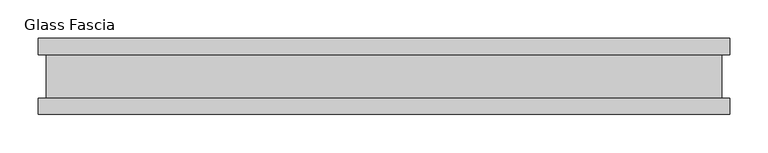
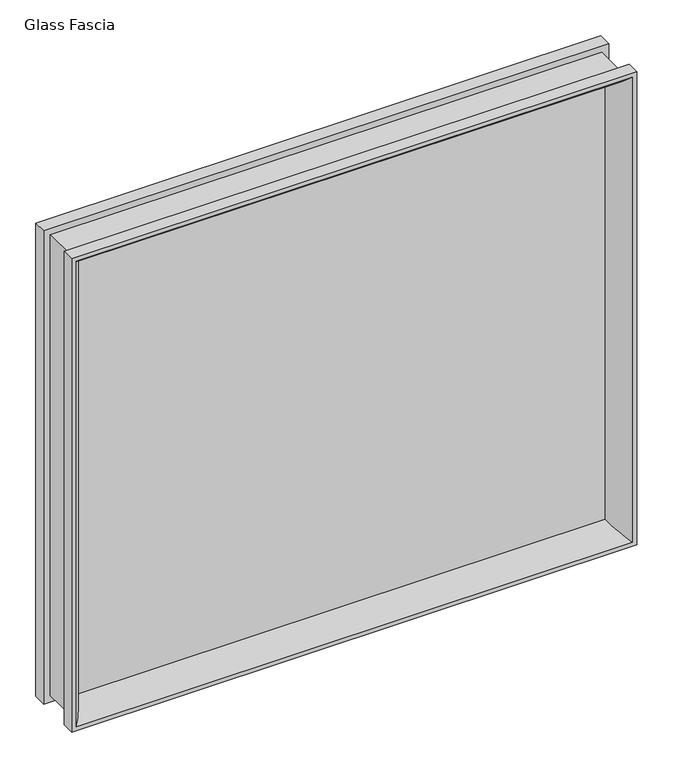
"""IFC4 building model written with IfcOpenShell, lengths in millimetres: proxy geometry, Panel-Fascia-Teknion-Altos-Glass : Glass Fascia."""

from ifc_helpers import new_model, si_unit, frame, origin, place, context, project, spatial, polyline, ellipse_curve, outline, extrude, source, transform, mapped, element, save
from ifc_brep_helpers import plane_surface, cylinder_surface, advanced_brep


def glass_fascia_649ace3c(model_context):
    return source(origin(), model_context, "Body", "SolidModel", [
        advanced_brep(
        [(429.1093308, 5.0827449, 782.6403332), (447.0641812, 50.0558594, 800.5951836), (447.0641812, 50.0558594, 10.1728164), (429.1093308, 5.0827449, 28.1276668), (439.5995219, -5.0827449, 793.1305243), (439.5995219, 5.0827449, 793.1305243), (439.5995219, 5.0827449, 17.6374757), (439.5995219, -5.0827449, 17.6374757), (447.0641812, -50.0558594, 800.5951836), (429.1093308, -5.0827449, 782.6403332), (429.1093308, -5.0827449, 28.1276668), (447.0641812, -50.0558594, 10.1728164), (454.0619976, -28.8801202, 807.593), (454.0619976, -50.0558594, 807.593), (454.0619976, -50.0558594, 3.175), (454.0619976, -28.8801202, 3.175), (443.2369977, 28.2698798, 796.7680001), (443.2369977, -28.8801202, 796.7680001), (443.2369977, -28.8801202, 13.9999999), (443.2369977, 28.2698798, 13.9999999), (454.0619976, 50.0558594, 807.593), (454.0619976, 28.2698798, 807.593), (454.0619976, 28.2698798, 3.175), (454.0619976, 50.0558594, 3.175), (-447.0641812, 50.0558594, 10.1728164), (-429.1093308, 5.0827449, 28.1276668), (-439.5995219, 5.0827449, 17.6374757), (-439.5995219, -5.0827449, 17.6374757), (-429.1093308, -5.0827449, 28.1276668), (-447.0641812, -50.0558594, 10.1728164), (-454.0619976, -50.0558594, 3.175), (-454.0619976, -28.8801202, 3.175), (-443.2369977, -28.8801202, 13.9999999), (-443.2369977, 28.2698798, 13.9999999), (-454.0619976, 28.2698798, 3.175), (-454.0619976, 50.0558594, 3.175), (-447.0641812, 50.0558594, 800.5951836), (-429.1093308, 5.0827449, 782.6403332), (-439.5995219, 5.0827449, 793.1305243), (-439.5995219, -5.0827449, 793.1305243), (-429.1093308, -5.0827449, 782.6403332), (-447.0641812, -50.0558594, 800.5951836), (-454.0619976, -50.0558594, 807.593), (-454.0619976, -28.8801202, 807.593), (-443.2369977, -28.8801202, 796.7680001), (-443.2369977, 28.2698798, 796.7680001), (-454.0619976, 28.2698798, 807.593), (-454.0619976, 50.0558594, 807.593)],
        [
            (0, 1, ellipse_curve(frame((481.1955682, 10.3587469, 834.7265705), z_axis=(0.7071067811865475, 0.0, -0.7071067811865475), x_axis=(0.7071067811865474, 0.0, 0.7071067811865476)), 74.0379946, 52.352768)),
            (1, 2),
            (2, 3, ellipse_curve(frame((481.1955682, 10.3587469, -23.9585705), z_axis=(0.7071067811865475, 0.0, 0.7071067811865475), x_axis=(-0.7071067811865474, 0.0, 0.7071067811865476)), 74.0379946, 52.352768)),
            (3, 0),
            (4, 5),
            (5, 6),
            (6, 7),
            (7, 4),
            (8, 9, ellipse_curve(frame((481.1955682, -10.3587469, 834.7265705), z_axis=(0.7071067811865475, 0.0, -0.7071067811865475), x_axis=(0.7071067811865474, 0.0, 0.7071067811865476)), 74.0379946, 52.352768)),
            (9, 10),
            (10, 11, ellipse_curve(frame((481.1955682, -10.3587469, -23.9585705), z_axis=(0.7071067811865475, 0.0, 0.7071067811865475), x_axis=(-0.7071067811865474, 0.0, 0.7071067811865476)), 74.0379946, 52.352768)),
            (11, 8),
            (12, 13),
            (13, 14),
            (14, 15),
            (15, 12),
            (16, 17),
            (17, 18),
            (18, 19),
            (19, 16),
            (20, 21),
            (21, 22),
            (22, 23),
            (23, 20),
            (2, 24),
            (24, 25, ellipse_curve(frame((-481.1955682, 10.3587469, -23.9585705), z_axis=(0.7071067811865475, 0.0, -0.7071067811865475), x_axis=(0.7071067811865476, 0.0, 0.7071067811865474)), 74.0379946, 52.352768)),
            (25, 3),
            (6, 26),
            (26, 27),
            (27, 7),
            (10, 28),
            (28, 29, ellipse_curve(frame((-481.1955682, -10.3587469, -23.9585705), z_axis=(0.7071067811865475, 0.0, -0.7071067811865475), x_axis=(0.7071067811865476, 0.0, 0.7071067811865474)), 74.0379946, 52.352768)),
            (29, 11),
            (14, 30),
            (30, 31),
            (31, 15),
            (18, 32),
            (32, 33),
            (33, 19),
            (22, 34),
            (34, 35),
            (35, 23),
            (24, 36),
            (36, 37, ellipse_curve(frame((-481.1955682, 10.3587469, 834.7265705), z_axis=(-0.7071067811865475, 0.0, -0.7071067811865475), x_axis=(0.7071067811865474, 0.0, -0.7071067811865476)), 74.0379946, 52.352768)),
            (37, 25),
            (26, 38),
            (38, 39),
            (39, 27),
            (28, 40),
            (40, 41, ellipse_curve(frame((-481.1955682, -10.3587469, 834.7265705), z_axis=(-0.7071067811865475, 0.0, -0.7071067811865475), x_axis=(0.7071067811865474, 0.0, -0.7071067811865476)), 74.0379946, 52.352768)),
            (41, 29),
            (30, 42),
            (42, 43),
            (43, 31),
            (32, 44),
            (44, 45),
            (45, 33),
            (34, 46),
            (46, 47),
            (47, 35),
            (47, 20),
            (1, 36),
            (0, 37),
            (5, 38),
            (4, 39),
            (9, 40),
            (8, 41),
            (13, 42),
            (12, 43),
            (17, 44),
            (16, 45),
            (21, 46),
        ],
        [
            cylinder_surface(frame((481.1955682, 10.3587469, 807.593), z_axis=(0.0, 0.0, 1.0), x_axis=(1.0, 0.0, 0.0)), 52.352768),
            plane_surface(frame((439.5995219, 5.0827449, 793.1305243), z_axis=(-1.0, 0.0, 0.0), x_axis=(0.0, 0.0, -1.0))),
            cylinder_surface(frame((481.1955682, -10.3587469, 807.593), z_axis=(0.0, 0.0, 1.0), x_axis=(1.0, 0.0, 0.0)), 52.352768),
            plane_surface(frame((454.0619976, -50.0558594, 807.593), z_axis=(1.0, 0.0, 0.0), x_axis=(0.0, 0.0, -1.0))),
            plane_surface(frame((443.2369977, -28.8801202, 796.7680001), z_axis=(1.0, 0.0, 0.0), x_axis=(0.0, 0.0, -1.0))),
            plane_surface(frame((454.0619976, 28.2698798, 807.593), z_axis=(1.0, 0.0, 0.0), x_axis=(0.0, 0.0, -1.0))),
            cylinder_surface(frame((454.0619976, 10.3587469, -23.9585705), z_axis=(1.0, 0.0, 0.0), x_axis=(0.0, 0.0, -1.0)), 52.352768),
            plane_surface(frame((439.5995219, 5.0827449, 17.6374757), z_axis=(0.0, 0.0, 1.0), x_axis=(-1.0, 0.0, 0.0))),
            cylinder_surface(frame((454.0619976, -10.3587469, -23.9585705), z_axis=(1.0, 0.0, 0.0), x_axis=(0.0, 0.0, -1.0)), 52.352768),
            plane_surface(frame((454.0619976, -50.0558594, 3.175), z_axis=(0.0, 0.0, -1.0), x_axis=(-1.0, 0.0, 0.0))),
            plane_surface(frame((443.2369977, -28.8801202, 13.9999999), z_axis=(0.0, 0.0, -1.0), x_axis=(-1.0, 0.0, 0.0))),
            plane_surface(frame((454.0619976, 28.2698798, 3.175), z_axis=(0.0, 0.0, -1.0), x_axis=(-1.0, 0.0, 0.0))),
            cylinder_surface(frame((-481.1955682, 10.3587469, 3.175), z_axis=(0.0, 0.0, -1.0), x_axis=(-1.0, 0.0, 0.0)), 52.352768),
            plane_surface(frame((-439.5995219, 5.0827449, 17.6374757), z_axis=(1.0, 0.0, 0.0), x_axis=(0.0, 0.0, 1.0))),
            cylinder_surface(frame((-481.1955682, -10.3587469, 3.175), z_axis=(0.0, 0.0, -1.0), x_axis=(-1.0, 0.0, 0.0)), 52.352768),
            plane_surface(frame((-454.0619976, -50.0558594, 3.175), z_axis=(-1.0, 0.0, 0.0), x_axis=(0.0, 0.0, 1.0))),
            plane_surface(frame((-443.2369977, -28.8801202, 13.9999999), z_axis=(-1.0, 0.0, 0.0), x_axis=(0.0, 0.0, 1.0))),
            plane_surface(frame((-454.0619976, 28.2698798, 3.175), z_axis=(-1.0, 0.0, 0.0), x_axis=(0.0, 0.0, 1.0))),
            plane_surface(frame((-454.0619976, 50.0558594, 807.593), z_axis=(0.0, 1.0, 0.0), x_axis=(1.0, 0.0, 0.0))),
            cylinder_surface(frame((-454.0619976, 10.3587469, 834.7265705), z_axis=(-1.0, 0.0, 0.0), x_axis=(0.0, 0.0, 1.0)), 52.352768),
            plane_surface(frame((-429.1093308, 5.0827449, 782.6403332), z_axis=(0.0, -1.0, 0.0), x_axis=(1.0, 0.0, 0.0))),
            plane_surface(frame((-439.5995219, 5.0827449, 793.1305243), z_axis=(0.0, 0.0, -1.0), x_axis=(1.0, 0.0, 0.0))),
            plane_surface(frame((-439.5995219, -5.0827449, 793.1305243), z_axis=(0.0, 1.0, 0.0), x_axis=(1.0, 0.0, 0.0))),
            cylinder_surface(frame((-454.0619976, -10.3587469, 834.7265705), z_axis=(-1.0, 0.0, 0.0), x_axis=(0.0, 0.0, 1.0)), 52.352768),
            plane_surface(frame((-447.0641812, -50.0558594, 800.5951836), z_axis=(0.0, -1.0, 0.0), x_axis=(1.0, 0.0, 0.0))),
            plane_surface(frame((-454.0619976, -50.0558594, 807.593), z_axis=(0.0, 0.0, 1.0), x_axis=(1.0, 0.0, 0.0))),
            plane_surface(frame((-454.0619976, -28.8801202, 807.593), z_axis=(0.0, 1.0, 0.0), x_axis=(1.0, 0.0, 0.0))),
            plane_surface(frame((-443.2369977, -28.8801202, 796.7680001), z_axis=(0.0, 0.0, 1.0), x_axis=(1.0, 0.0, 0.0))),
            plane_surface(frame((-443.2369977, 28.2698798, 796.7680001), z_axis=(0.0, -1.0, 0.0), x_axis=(1.0, 0.0, 0.0))),
            plane_surface(frame((-454.0619976, 28.2698798, 807.593), z_axis=(0.0, 0.0, 1.0), x_axis=(1.0, 0.0, 0.0))),
        ],
        [
            (0, [[1, 2, 3, 4]]),
            (1, [[5, 6, 7, 8]]),
            (2, [[9, 10, 11, 12]]),
            (3, [[13, 14, 15, 16]]),
            (4, [[17, 18, 19, 20]]),
            (5, [[21, 22, 23, 24]]),
            (6, [[-3, 25, 26, 27]]),
            (7, [[-7, 28, 29, 30]]),
            (8, [[-11, 31, 32, 33]]),
            (9, [[-15, 34, 35, 36]]),
            (10, [[-19, 37, 38, 39]]),
            (11, [[-23, 40, 41, 42]]),
            (12, [[-26, 43, 44, 45]]),
            (13, [[-29, 46, 47, 48]]),
            (14, [[-32, 49, 50, 51]]),
            (15, [[-35, 52, 53, 54]]),
            (16, [[-38, 55, 56, 57]]),
            (17, [[-41, 58, 59, 60]]),
            (18, [[-42, -60, 61, -24], [62, -43, -25, -2]]),
            (19, [[-44, -62, -1, 63]]),
            (20, [[64, -46, -28, -6], [-27, -45, -63, -4]]),
            (21, [[-47, -64, -5, 65]]),
            (22, [[-30, -48, -65, -8], [66, -49, -31, -10]]),
            (23, [[-50, -66, -9, 67]]),
            (24, [[68, -52, -34, -14], [-33, -51, -67, -12]]),
            (25, [[-53, -68, -13, 69]]),
            (26, [[-36, -54, -69, -16], [70, -55, -37, -18]]),
            (27, [[-56, -70, -17, 71]]),
            (28, [[72, -58, -40, -22], [-39, -57, -71, -20]]),
            (29, [[-59, -72, -21, -61]]),
        ],
    ),
        extrude(outline(polyline([(439.5995219, 2.9765625), (439.5995219, -2.9765625), (-439.5995219, -2.9765625), (-439.5995219, 2.9765625), (439.5995219, 2.9765625)])), frame((0.0, 0.0, 17.6374757), z_axis=(0.0, 0.0, 1.0), x_axis=(1.0, 0.0, 0.0)), (0.0, 0.0, 1.0), 775.4930485),
    ])


if __name__ == "__main__":
    model = new_model("IFC4")
    model_context = context("Model", 3, world=origin())
    ifc_project = project(units=[si_unit("LENGTHUNIT", "METRE", prefix="MILLI")], contexts=[model_context])
    site = spatial("IfcSite", under=ifc_project)
    building = spatial("IfcBuilding", under=site)
    placement = place(None, origin())
    glass_fascia_shape = glass_fascia_649ace3c(model_context)
    element("IfcBuildingElementProxy", 1, Name="Panel-Fascia-Teknion-Altos-Glass : Glass Fascia", ObjectType="Panel-Fascia-Teknion-Altos-Glass : Glass Fascia", at=placement, inside=building, context=model_context, shape_type="MappedRepresentation", body=[
        mapped(glass_fascia_shape, transform((0.0, 0.0, 0.0), x_axis=(1.0, 0.0, 0.0), y_axis=(0.0, 1.0, 0.0), z_axis=(0.0, 0.0, 1.0))),
    ])
    save(model, "model.ifc")
